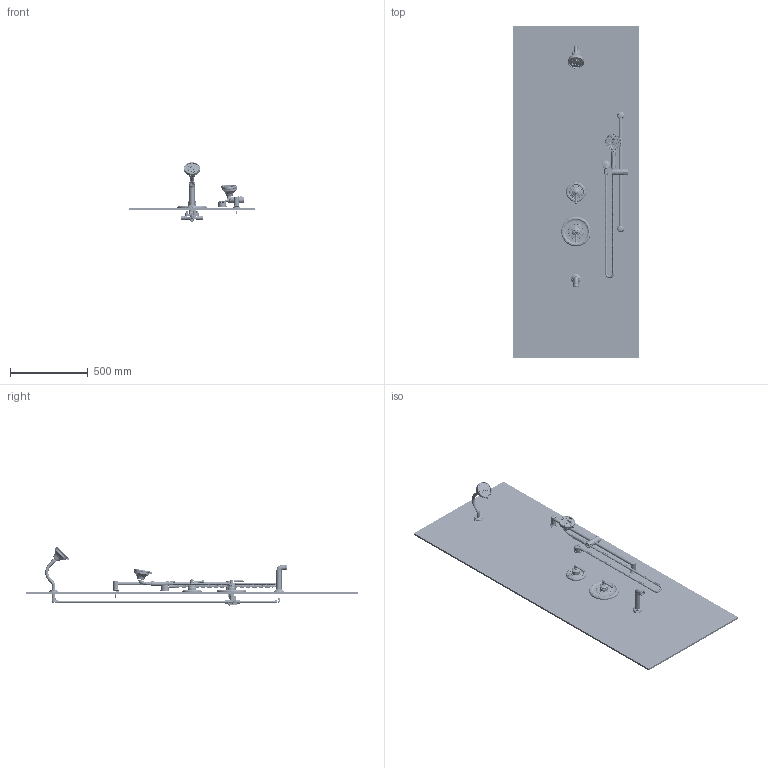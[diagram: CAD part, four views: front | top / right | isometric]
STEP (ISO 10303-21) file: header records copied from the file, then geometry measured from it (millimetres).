
FILE_DESCRIPTION (( 'STEP AP214' ), '1' );
FILE_NAME ('5896TRM.STEP', '2025-11-21T03:20:45', ( '' ), ( '' ), 'SwSTEP 2.0', 'SolidWorks 2023', '' );
FILE_SCHEMA (( 'AUTOMOTIVE_DESIGN' ));
Length unit declared in the file: inch
Products named in the file (1): 5896TRM
Bounding box: 812.8 x 2133.6 x 380.93 mm (x, y, z)
Surface area: 4055488.9 mm2 (no closed solid volume)
Topology: 0 solids, 297 shells, 1128 faces, 5156 edges, 4136 vertices
Faces by surface type: bspline 296, cylinder 238, cone 206, torus 201, plane 173, sphere 14
Entity records: 199247 total; most frequent: CARTESIAN_POINT 162077, DIRECTION 6986, ORIENTED_EDGE 6792, EDGE_CURVE 5139, VERTEX_POINT 4133, AXIS2_PLACEMENT_3D 2956, CIRCLE 2123, B_SPLINE_CURVE_WITH_KNOTS 1627
